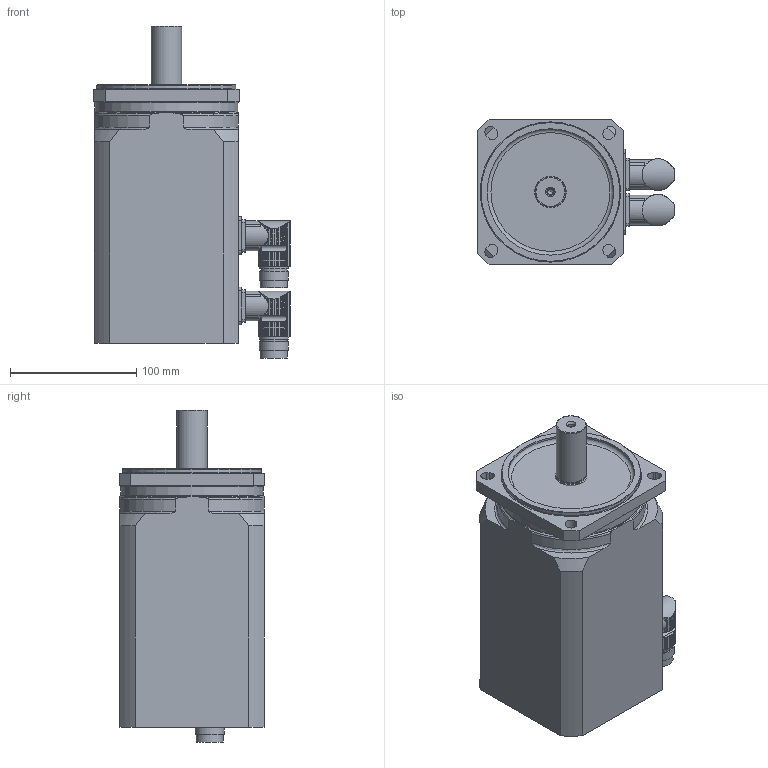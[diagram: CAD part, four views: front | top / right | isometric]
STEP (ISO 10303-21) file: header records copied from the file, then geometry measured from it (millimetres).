
FILE_DESCRIPTION(/* description */ (''),/* implementation_level */ '2;1');
FILE_NAME(/* name */ 'MR 7442-Ux-Nxxx-G01-A0D-MS',/* time_stamp */ '2007-07-13T09:50:00+01:00',/* author */ (''),/* organization */ ('ESR Pollmeier GmbH'),/* preprocessor_version */ 'ST-DEVELOPER v8',/* originating_system */ 'UNIGRAPHICS SOLUTIONS - UNIGRAPHICS 18.0',/* authorisation */ '');
FILE_SCHEMA (('AUTOMOTIVE_DESIGN { 1 2 10303 214 0 1 1 1 }'));
Length unit declared in the file: millimetre
Products named in the file (3): Winkelflanschdose_0; Rotor_SY4_0; MR7442-Ux-Nxxx-G01-A0D-MS_0
Assembly tree (3 placements, depth 2):
  MR7442-Ux-Nxxx-G01-A0D-MS_0
    Rotor_SY4_0
    Winkelflanschdose_0  x2
Bounding box: 155.49 x 115 x 262.65 mm (x, y, z)
Volume: 2608429.5 mm3; surface area: 139653.4 mm2
Topology: 4 solids, 4 shells, 427 faces, 1192 edges, 791 vertices
Faces by surface type: cylinder 320, plane 82, torus 15, cone 10
Full cylindrical faces by diameter (mm): 4.351 x1, 5.5 x1, 16 x2, 21 x2, 21.5 x2, 23 x4, 23.52 x1, 24 x1, 25 x1, 100 x1, 110 x1, 113 x1
Entity records: 8893 total; most frequent: CARTESIAN_POINT 2301, ORIENTED_EDGE 1382, DIRECTION 1304, EDGE_CURVE 691, AXIS2_PLACEMENT_3D 514, VERTEX_POINT 473, EDGE_LOOP 309, LINE 276
